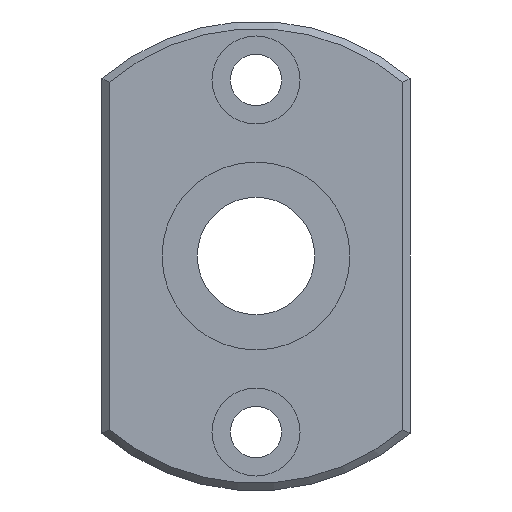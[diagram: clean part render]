
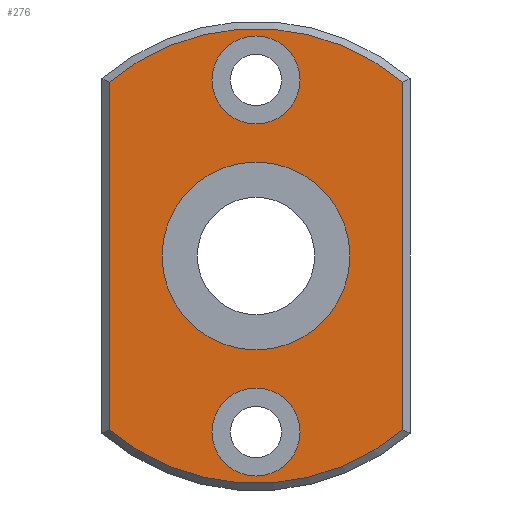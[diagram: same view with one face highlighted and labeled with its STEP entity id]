
A CAD part, left-side view. The second image highlights one B-rep face of the part: STEP entity #276.
In plain terms, the highlighted planar face has unit normal (-1, 0, 0).
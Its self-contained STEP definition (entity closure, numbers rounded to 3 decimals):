
#59=CARTESIAN_POINT('',(0.0,10.,-11.843));
#60=VERTEX_POINT('',#59);
#68=CARTESIAN_POINT('',(0.0,10.,11.843));
#69=VERTEX_POINT('',#68);
#70=CARTESIAN_POINT('',(0.0,10.,-11.843));
#71=DIRECTION('',(0.0,0.0,1.0));
#72=VECTOR('',#71,23.685);
#73=LINE('',#70,#72);
#74=EDGE_CURVE('',#60,#69,#73,.T.);
#101=CARTESIAN_POINT('',(0.0,-10.,11.843));
#102=VERTEX_POINT('',#101);
#103=CARTESIAN_POINT('',(0.0,0.0,0.0));
#104=DIRECTION('',(1.0,0.0,0.0));
#105=DIRECTION('',(0.0,0.0,1.0));
#106=AXIS2_PLACEMENT_3D('',#103,#104,#105);
#107=CIRCLE('',#106,15.5);
#108=EDGE_CURVE('',#69,#102,#107,.T.);
#134=CARTESIAN_POINT('',(0.0,-10.0,-11.843));
#135=VERTEX_POINT('',#134);
#136=CARTESIAN_POINT('',(0.0,-10.,11.843));
#137=DIRECTION('',(0.0,0.0,-1.0));
#138=VECTOR('',#137,23.685);
#139=LINE('',#136,#138);
#140=EDGE_CURVE('',#102,#135,#139,.T.);
#165=CARTESIAN_POINT('',(0.0,0.0,0.0));
#166=DIRECTION('',(1.0,0.0,0.0));
#167=DIRECTION('',(0.0,0.0,-1.0));
#168=AXIS2_PLACEMENT_3D('',#165,#166,#167);
#169=CIRCLE('',#168,15.5);
#170=EDGE_CURVE('',#135,#60,#169,.T.);
#232=CARTESIAN_POINT('',(0.0,0.0,6.95));
#233=DIRECTION('',(-1.0,0.0,0.0));
#234=DIRECTION('',(0.0,0.0,1.0));
#235=AXIS2_PLACEMENT_3D('',#232,#233,#234);
#236=PLANE('',#235);
#237=ORIENTED_EDGE('',*,*,#74,.F.);
#238=ORIENTED_EDGE('',*,*,#170,.F.);
#239=ORIENTED_EDGE('',*,*,#140,.F.);
#240=ORIENTED_EDGE('',*,*,#108,.F.);
#241=EDGE_LOOP('',(#237,#238,#239,#240));
#242=FACE_OUTER_BOUND('',#241,.T.);
#243=CARTESIAN_POINT('',(0.0,0.0,6.4));
#244=VERTEX_POINT('',#243);
#245=CARTESIAN_POINT('',(0.0,0.0,0.0));
#246=DIRECTION('',(-1.0,0.0,0.0));
#247=DIRECTION('',(0.0,0.0,1.0));
#248=AXIS2_PLACEMENT_3D('',#245,#246,#247);
#249=CIRCLE('',#248,6.4);
#250=EDGE_CURVE('',#244,#244,#249,.T.);
#251=ORIENTED_EDGE('',*,*,#250,.F.);
#252=EDGE_LOOP('',(#251));
#253=FACE_BOUND('',#252,.T.);
#254=CARTESIAN_POINT('',(0.0,3.,-12.));
#255=VERTEX_POINT('',#254);
#256=CARTESIAN_POINT('',(0.0,0.,-12.));
#257=DIRECTION('',(1.0,0.0,0.0));
#258=DIRECTION('',(0.0,1.0,0.0));
#259=AXIS2_PLACEMENT_3D('',#256,#257,#258);
#260=CIRCLE('',#259,3.);
#261=EDGE_CURVE('',#255,#255,#260,.T.);
#262=ORIENTED_EDGE('',*,*,#261,.T.);
#263=EDGE_LOOP('',(#262));
#264=FACE_BOUND('',#263,.T.);
#265=CARTESIAN_POINT('',(0.0,3.,12.));
#266=VERTEX_POINT('',#265);
#267=CARTESIAN_POINT('',(0.0,0.,12.));
#268=DIRECTION('',(1.0,0.0,0.0));
#269=DIRECTION('',(0.0,1.0,0.0));
#270=AXIS2_PLACEMENT_3D('',#267,#268,#269);
#271=CIRCLE('',#270,3.);
#272=EDGE_CURVE('',#266,#266,#271,.T.);
#273=ORIENTED_EDGE('',*,*,#272,.T.);
#274=EDGE_LOOP('',(#273));
#275=FACE_BOUND('',#274,.T.);
#276=ADVANCED_FACE('',(#242,#253,#264,#275),#236,.T.);
